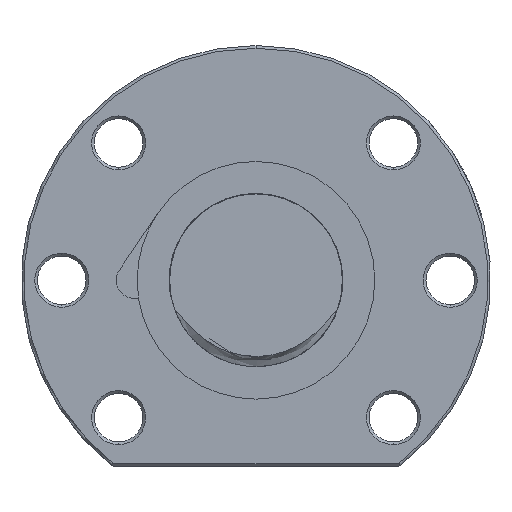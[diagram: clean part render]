
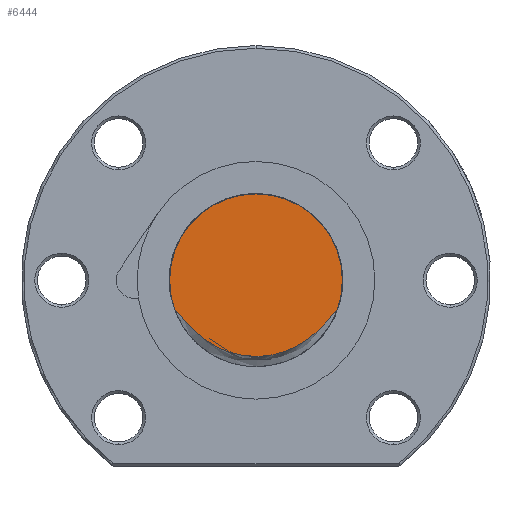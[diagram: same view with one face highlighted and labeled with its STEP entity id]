
A CAD part, left-side view. The second image highlights one B-rep face of the part: STEP entity #6444.
In plain terms, the highlighted planar face has unit normal (-1, 0, 0).
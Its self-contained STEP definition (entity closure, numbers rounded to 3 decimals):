
#3449 = CARTESIAN_POINT ( 'NONE',  ( -231., -15.065, -5.389 ) ) ;
#3450 = DIRECTION ( 'NONE',  ( 0., 1., 0. ) ) ;
#3451 = DIRECTION ( 'NONE',  ( 1., 0., 0. ) ) ;
#3452 = AXIS2_PLACEMENT_3D ( 'NONE', #3458, #3451, #3450 ) ;
#3453 = CIRCLE ( 'NONE', #3452, 16. ) ;
#3458 = CARTESIAN_POINT ( 'NONE',  ( -231., 0., 0. ) ) ;
#3721 = CARTESIAN_POINT ( 'NONE',  ( -231., -15.065, -5.389 ) ) ;
#3723 = CARTESIAN_POINT ( 'NONE',  ( -231., -14.923, -5.514 ) ) ;
#3725 = CARTESIAN_POINT ( 'NONE',  ( -231., -14.793, -5.652 ) ) ;
#3727 = CARTESIAN_POINT ( 'NONE',  ( -231., -14.539, -5.933 ) ) ;
#3729 = CARTESIAN_POINT ( 'NONE',  ( -231., -14.416, -6.078 ) ) ;
#3731 = CARTESIAN_POINT ( 'NONE',  ( -231., -14.051, -6.514 ) ) ;
#3733 = CARTESIAN_POINT ( 'NONE',  ( -231., -13.812, -6.808 ) ) ;
#3735 = CARTESIAN_POINT ( 'NONE',  ( -231., -13.084, -7.681 ) ) ;
#3737 = CARTESIAN_POINT ( 'NONE',  ( -231., -12.583, -8.253 ) ) ;
#3739 = CARTESIAN_POINT ( 'NONE',  ( -231., -11.527, -9.336 ) ) ;
#3741 = CARTESIAN_POINT ( 'NONE',  ( -231., -10.973, -9.848 ) ) ;
#3743 = CARTESIAN_POINT ( 'NONE',  ( -231., -9.803, -10.802 ) ) ;
#3745 = CARTESIAN_POINT ( 'NONE',  ( -231., -9.183, -11.247 ) ) ;
#3747 = CARTESIAN_POINT ( 'NONE',  ( -231., -7.261, -12.443 ) ) ;
#3749 = CARTESIAN_POINT ( 'NONE',  ( -231., -5.893, -13.062 ) ) ;
#3751 = CARTESIAN_POINT ( 'NONE',  ( -231., -2.974, -13.91 ) ) ;
#3753 = CARTESIAN_POINT ( 'NONE',  ( -231., -1.489, -14.121 ) ) ;
#3755 = CARTESIAN_POINT ( 'NONE',  ( -231., 0.396, -14.118 ) ) ;
#3757 = CARTESIAN_POINT ( 'NONE',  ( -231., 0.777, -14.104 ) ) ;
#3759 = CARTESIAN_POINT ( 'NONE',  ( -231., 1.533, -14.049 ) ) ;
#3761 = CARTESIAN_POINT ( 'NONE',  ( -231., 1.908, -14.008 ) ) ;
#3763 = CARTESIAN_POINT ( 'NONE',  ( -231., 3.024, -13.846 ) ) ;
#3765 = CARTESIAN_POINT ( 'NONE',  ( -231., 3.756, -13.685 ) ) ;
#3766 = CARTESIAN_POINT ( 'NONE',  ( -231., 4.836, -13.368 ) ) ;
#3767 = CARTESIAN_POINT ( 'NONE',  ( -231., 5.194, -13.249 ) ) ;
#3768 = CARTESIAN_POINT ( 'NONE',  ( -231., 5.902, -12.986 ) ) ;
#3769 = CARTESIAN_POINT ( 'NONE',  ( -231., 6.255, -12.841 ) ) ;
#3771 = CARTESIAN_POINT ( 'NONE',  ( -231., 7.287, -12.374 ) ) ;
#3773 = CARTESIAN_POINT ( 'NONE',  ( -231., 7.947, -12.019 ) ) ;
#3775 = CARTESIAN_POINT ( 'NONE',  ( -231., 9.212, -11.227 ) ) ;
#3776 = CARTESIAN_POINT ( 'NONE',  ( -231., 9.818, -10.791 ) ) ;
#3777 = CARTESIAN_POINT ( 'NONE',  ( -231., 10.979, -9.843 ) ) ;
#3778 = CARTESIAN_POINT ( 'NONE',  ( -231., 11.536, -9.327 ) ) ;
#3779 = CARTESIAN_POINT ( 'NONE',  ( -231., 12.592, -8.243 ) ) ;
#3780 = CARTESIAN_POINT ( 'NONE',  ( -231., 13.09, -7.674 ) ) ;
#3782 = CARTESIAN_POINT ( 'NONE',  ( -231., 13.816, -6.803 ) ) ;
#3785 = CARTESIAN_POINT ( 'NONE',  ( -231., 14.054, -6.509 ) ) ;
#3787 = CARTESIAN_POINT ( 'NONE',  ( -231., 14.419, -6.074 ) ) ;
#3789 = CARTESIAN_POINT ( 'NONE',  ( -231., 14.541, -5.93 ) ) ;
#3790 = CARTESIAN_POINT ( 'NONE',  ( -231., 14.794, -5.65 ) ) ;
#3791 = CARTESIAN_POINT ( 'NONE',  ( -231., 14.923, -5.513 ) ) ;
#3792 = CARTESIAN_POINT ( 'NONE',  ( -231., 15.065, -5.388 ) ) ;
#3797 = B_SPLINE_CURVE_WITH_KNOTS ( 'NONE', 3,
 ( #3792, #3791, #3790, #3789, #3787, #3785, #3782, #3780, #3779, #3778, #3777, #3776, #3775, #3773, #3771, #3769, #3768, #3767, #3766, #3765, #3763, #3761, #3759, #3757, #3755, #3753, #3751, #3749, #3747, #3745, #3743, #3741, #3739, #3737, #3735, #3733, #3731, #3729, #3727, #3725, #3723, #3721 ),
 .UNSPECIFIED., .F., .F.,
 ( 4, 2, 2, 2, 2, 2, 2, 2, 2, 2, 2, 2, 2, 2, 2, 2, 2, 2, 2, 2, 4 ),
 ( 0.014, 0.015, 0.015, 0.017, 0.019, 0.021, 0.023, 0.025, 0.027, 0.028, 0.03, 0.031, 0.032, 0.037, 0.041, 0.043, 0.046, 0.048, 0.049, 0.05, 0.05 ),
 .UNSPECIFIED. ) ;
#4054 = DIRECTION ( 'NONE',  ( 0., 0., -1. ) ) ;
#4055 = DIRECTION ( 'NONE',  ( 1., 0., 0. ) ) ;
#4056 = CARTESIAN_POINT ( 'NONE',  ( -231., 0., 0. ) ) ;
#4057 = AXIS2_PLACEMENT_3D ( 'NONE', #4056, #4055, #4054 ) ;
#4059 = PLANE ( 'NONE',  #4057 ) ;
#4063 = FACE_OUTER_BOUND ( 'NONE', #6445, .T. ) ;
#6444 = ADVANCED_FACE ( 'NONE', ( #4063 ), #4059, .F. ) ;
#6445 = EDGE_LOOP ( 'NONE', ( #6446, #6447, #6461 ) ) ;
#6446 = ORIENTED_EDGE ( 'NONE', *, *, #31000, .F. ) ;
#6447 = ORIENTED_EDGE ( 'NONE', *, *, #6460, .T. ) ;
#6460 = EDGE_CURVE ( 'NONE', #31001, #31360, #3797, .T. ) ;
#6461 = ORIENTED_EDGE ( 'NONE', *, *, #31359, .F. ) ;
#20456 = CARTESIAN_POINT ( 'NONE',  ( -231., 0., 0. ) ) ;
#20457 = CARTESIAN_POINT ( 'NONE',  ( -231., 15.065, -5.388 ) ) ;
#20583 = CARTESIAN_POINT ( 'NONE',  ( -231., 0., 16. ) ) ;
#20585 = DIRECTION ( 'NONE',  ( 0., 1., 0. ) ) ;
#20587 = DIRECTION ( 'NONE',  ( 1., 0., 0. ) ) ;
#20589 = AXIS2_PLACEMENT_3D ( 'NONE', #20456, #20587, #20585 ) ;
#20590 = CIRCLE ( 'NONE', #20589, 16. ) ;
#31000 = EDGE_CURVE ( 'NONE', #31001, #31002, #20590, .T. ) ;
#31001 = VERTEX_POINT ( 'NONE', #20457 ) ;
#31002 = VERTEX_POINT ( 'NONE', #20583 ) ;
#31359 = EDGE_CURVE ( 'NONE', #31002, #31360, #3453, .T. ) ;
#31360 = VERTEX_POINT ( 'NONE', #3449 ) ;
